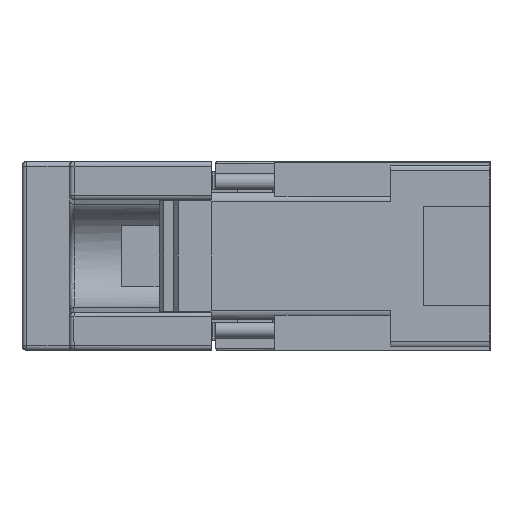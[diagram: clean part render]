
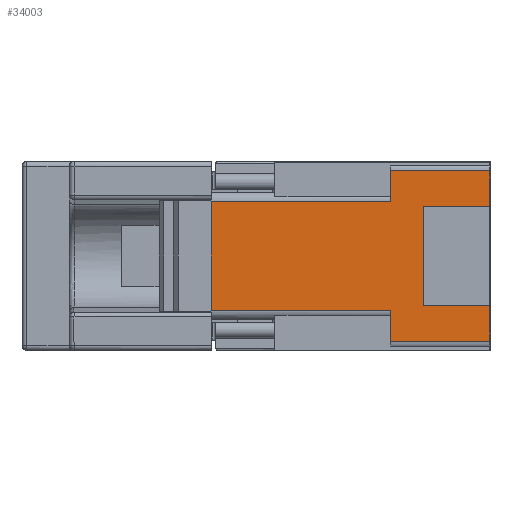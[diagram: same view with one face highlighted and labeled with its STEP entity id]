
A CAD part, left-side view. The second image highlights one B-rep face of the part: STEP entity #34003.
In plain terms, the highlighted planar face has unit normal (-1, 0, 0).
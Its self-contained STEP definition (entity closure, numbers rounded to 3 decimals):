
#883 = LINE ( 'NONE', #23654, #9360 ) ;
#1000 = ORIENTED_EDGE ( 'NONE', *, *, #59998, .T. ) ;
#2377 = LINE ( 'NONE', #84363, #18247 ) ;
#2921 = EDGE_CURVE ( 'NONE', #49428, #63126, #18090, .T. ) ;
#3593 = CARTESIAN_POINT ( 'NONE',  ( -103.25, 10.5, 5.75 ) ) ;
#4745 = LINE ( 'NONE', #72390, #61697 ) ;
#5700 = DIRECTION ( 'NONE',  ( 0., 0., 1. ) ) ;
#6516 = EDGE_CURVE ( 'NONE', #26370, #30528, #35906, .T. ) ;
#6716 = CARTESIAN_POINT ( 'NONE',  ( -103.25, 29.5, -9. ) ) ;
#6980 = DIRECTION ( 'NONE',  ( 0., 0., -1. ) ) ;
#7467 = DIRECTION ( 'NONE',  ( 0., 0., -1. ) ) ;
#8740 = LINE ( 'NONE', #32923, #28794 ) ;
#9360 = VECTOR ( 'NONE', #70792, 1000. ) ;
#10128 = CARTESIAN_POINT ( 'NONE',  ( -103.25, 29.5, -10. ) ) ;
#11092 = CARTESIAN_POINT ( 'NONE',  ( -103.25, 0., 9. ) ) ;
#11685 = ORIENTED_EDGE ( 'NONE', *, *, #50260, .T. ) ;
#12252 = VERTEX_POINT ( 'NONE', #46480 ) ;
#12306 = DIRECTION ( 'NONE',  ( 0., -1., 0. ) ) ;
#12551 = CARTESIAN_POINT ( 'NONE',  ( -103.25, 0., 5.25 ) ) ;
#13887 = EDGE_CURVE ( 'NONE', #76561, #30528, #4745, .T. ) ;
#16179 = EDGE_CURVE ( 'NONE', #12252, #57683, #75885, .T. ) ;
#16396 = CARTESIAN_POINT ( 'NONE',  ( -103.25, 29.5, -5.25 ) ) ;
#16550 = EDGE_CURVE ( 'NONE', #35756, #49428, #883, .T. ) ;
#18090 = LINE ( 'NONE', #6716, #69727 ) ;
#18247 = VECTOR ( 'NONE', #70215, 1000. ) ;
#18629 = EDGE_CURVE ( 'NONE', #55912, #63126, #72963, .T. ) ;
#18954 = DIRECTION ( 'NONE',  ( -1., 0., 0. ) ) ;
#21801 = EDGE_CURVE ( 'NONE', #87212, #77599, #2377, .T. ) ;
#23113 = ORIENTED_EDGE ( 'NONE', *, *, #18629, .F. ) ;
#23654 = CARTESIAN_POINT ( 'NONE',  ( -103.25, 10.5, -10. ) ) ;
#24156 = CARTESIAN_POINT ( 'NONE',  ( -103.25, 29.5, -5.75 ) ) ;
#25133 = EDGE_CURVE ( 'NONE', #55912, #28982, #44381, .T. ) ;
#26079 = VECTOR ( 'NONE', #83151, 1000. ) ;
#26370 = VERTEX_POINT ( 'NONE', #11092 ) ;
#28794 = VECTOR ( 'NONE', #68239, 1000. ) ;
#28895 = CARTESIAN_POINT ( 'NONE',  ( -103.25, 29.5, 5.75 ) ) ;
#28982 = VERTEX_POINT ( 'NONE', #40015 ) ;
#29514 = LINE ( 'NONE', #24156, #30531 ) ;
#29607 = VECTOR ( 'NONE', #56450, 1000. ) ;
#29932 = CARTESIAN_POINT ( 'NONE',  ( -103.25, 0., -5.25 ) ) ;
#30528 = VERTEX_POINT ( 'NONE', #12551 ) ;
#30531 = VECTOR ( 'NONE', #45042, 1000. ) ;
#31705 = CARTESIAN_POINT ( 'NONE',  ( -103.25, 7., -10. ) ) ;
#32620 = FACE_OUTER_BOUND ( 'NONE', #42148, .T. ) ;
#32923 = CARTESIAN_POINT ( 'NONE',  ( -103.25, 29.5, 9. ) ) ;
#34003 = ADVANCED_FACE ( 'NONE', ( #32620 ), #70536, .T. ) ;
#35756 = VERTEX_POINT ( 'NONE', #69597 ) ;
#35906 = LINE ( 'NONE', #76158, #29607 ) ;
#38414 = CARTESIAN_POINT ( 'NONE',  ( -103.25, 29.5, -5.75 ) ) ;
#39250 = ORIENTED_EDGE ( 'NONE', *, *, #16550, .T. ) ;
#39761 = EDGE_CURVE ( 'NONE', #77599, #35756, #29514, .T. ) ;
#40015 = CARTESIAN_POINT ( 'NONE',  ( -103.25, 7., -5.25 ) ) ;
#40740 = AXIS2_PLACEMENT_3D ( 'NONE', #10128, #18954, #59308 ) ;
#42148 = EDGE_LOOP ( 'NONE', ( #48259, #64977, #54356, #11685, #65332, #80863, #39250, #71810, #23113, #68956, #1000, #83842 ) ) ;
#43441 = DIRECTION ( 'NONE',  ( 0., 1., 0. ) ) ;
#44381 = LINE ( 'NONE', #16396, #85515 ) ;
#45042 = DIRECTION ( 'NONE',  ( 0., -1., 0. ) ) ;
#45280 = VECTOR ( 'NONE', #7467, 1000. ) ;
#46480 = CARTESIAN_POINT ( 'NONE',  ( -103.25, 10.5, 9. ) ) ;
#46514 = DIRECTION ( 'NONE',  ( 0., -1., 0. ) ) ;
#48259 = ORIENTED_EDGE ( 'NONE', *, *, #6516, .F. ) ;
#49428 = VERTEX_POINT ( 'NONE', #84228 ) ;
#50260 = EDGE_CURVE ( 'NONE', #57683, #87212, #58775, .T. ) ;
#54356 = ORIENTED_EDGE ( 'NONE', *, *, #16179, .T. ) ;
#55912 = VERTEX_POINT ( 'NONE', #29932 ) ;
#56450 = DIRECTION ( 'NONE',  ( 0., 0., -1. ) ) ;
#57683 = VERTEX_POINT ( 'NONE', #3593 ) ;
#58775 = LINE ( 'NONE', #75431, #26079 ) ;
#59308 = DIRECTION ( 'NONE',  ( 0., 0., 1. ) ) ;
#59998 = EDGE_CURVE ( 'NONE', #28982, #76561, #65776, .T. ) ;
#61417 = CARTESIAN_POINT ( 'NONE',  ( -103.25, 10.5, -10. ) ) ;
#61544 = VECTOR ( 'NONE', #5700, 1000. ) ;
#61697 = VECTOR ( 'NONE', #12306, 1000. ) ;
#63126 = VERTEX_POINT ( 'NONE', #64862 ) ;
#64862 = CARTESIAN_POINT ( 'NONE',  ( -103.25, 0., -9. ) ) ;
#64977 = ORIENTED_EDGE ( 'NONE', *, *, #77161, .T. ) ;
#65332 = ORIENTED_EDGE ( 'NONE', *, *, #21801, .T. ) ;
#65776 = LINE ( 'NONE', #31705, #61544 ) ;
#66876 = CARTESIAN_POINT ( 'NONE',  ( -103.25, 0., -10. ) ) ;
#68239 = DIRECTION ( 'NONE',  ( 0., 1., 0. ) ) ;
#68956 = ORIENTED_EDGE ( 'NONE', *, *, #25133, .T. ) ;
#69597 = CARTESIAN_POINT ( 'NONE',  ( -103.25, 10.5, -5.75 ) ) ;
#69727 = VECTOR ( 'NONE', #46514, 1000. ) ;
#70215 = DIRECTION ( 'NONE',  ( 0., 0., -1. ) ) ;
#70536 = PLANE ( 'NONE',  #40740 ) ;
#70792 = DIRECTION ( 'NONE',  ( 0., 0., -1. ) ) ;
#71810 = ORIENTED_EDGE ( 'NONE', *, *, #2921, .T. ) ;
#72390 = CARTESIAN_POINT ( 'NONE',  ( -103.25, 29.5, 5.25 ) ) ;
#72963 = LINE ( 'NONE', #66876, #85788 ) ;
#73358 = CARTESIAN_POINT ( 'NONE',  ( -103.25, 7., 5.25 ) ) ;
#75431 = CARTESIAN_POINT ( 'NONE',  ( -103.25, 29.5, 5.75 ) ) ;
#75885 = LINE ( 'NONE', #61417, #45280 ) ;
#76158 = CARTESIAN_POINT ( 'NONE',  ( -103.25, 0., -10. ) ) ;
#76561 = VERTEX_POINT ( 'NONE', #73358 ) ;
#77161 = EDGE_CURVE ( 'NONE', #26370, #12252, #8740, .T. ) ;
#77599 = VERTEX_POINT ( 'NONE', #38414 ) ;
#80863 = ORIENTED_EDGE ( 'NONE', *, *, #39761, .T. ) ;
#83151 = DIRECTION ( 'NONE',  ( 0., 1., 0. ) ) ;
#83842 = ORIENTED_EDGE ( 'NONE', *, *, #13887, .T. ) ;
#84228 = CARTESIAN_POINT ( 'NONE',  ( -103.25, 10.5, -9. ) ) ;
#84363 = CARTESIAN_POINT ( 'NONE',  ( -103.25, 29.5, -10. ) ) ;
#85515 = VECTOR ( 'NONE', #43441, 1000. ) ;
#85788 = VECTOR ( 'NONE', #6980, 1000. ) ;
#87212 = VERTEX_POINT ( 'NONE', #28895 ) ;
